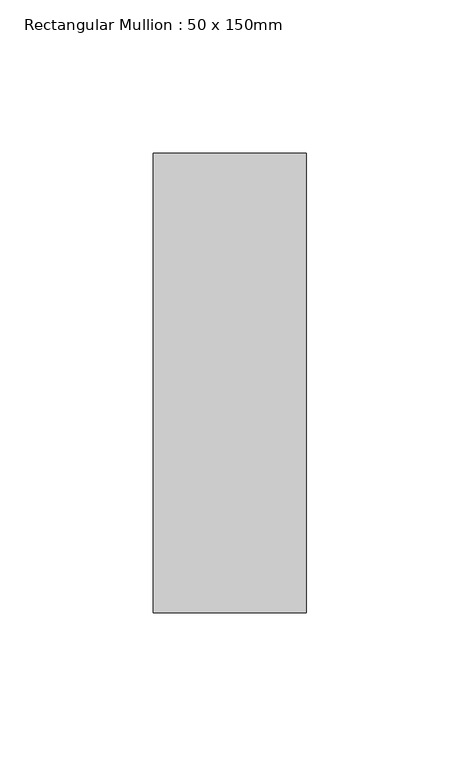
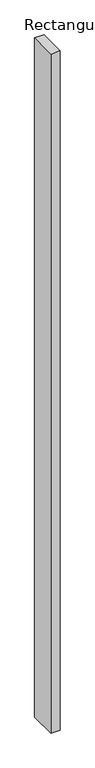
"""IFC4 building model written with IfcOpenShell, lengths in millimetres: member geometry, Rectangular Mullion : 50 x 150mm."""

from ifc_helpers import new_model, si_unit, frame, origin, place, context, project, spatial, polyline, outline, extrude, source, transform, mapped, element, save


def rectangular_mullion_50_x_150mm_e0b7c4f8(model_context):
    return source(origin(), model_context, "Body", "SweptSolid", [
        extrude(outline(polyline([(0.0, 75.0), (0.0, -75.0), (-50.0, -75.0), (-50.0, 75.0), (0.0, 75.0)])), frame((0.0, 0.0, -3850.0), z_axis=(0.0, 0.0, 1.0), x_axis=(1.0, 0.0, 0.0)), (0.0, 0.0, 1.0), 3850.0),
    ])


if __name__ == "__main__":
    model = new_model("IFC4")
    model_context = context("Model", 3, world=origin())
    ifc_project = project(units=[si_unit("LENGTHUNIT", "METRE", prefix="MILLI")], contexts=[model_context])
    site = spatial("IfcSite", under=ifc_project)
    building = spatial("IfcBuilding", under=site)
    placement = place(None, origin())
    rectangular_mullion_50_x_150mm_shape = rectangular_mullion_50_x_150mm_e0b7c4f8(model_context)
    element("IfcMember", 1, ObjectType="Rectangular Mullion : 50 x 150mm", at=placement, inside=building, context=model_context, shape_type="MappedRepresentation", body=[
        mapped(rectangular_mullion_50_x_150mm_shape, transform((0.0, 0.0, 0.0), x_axis=(1.0, 0.0, 0.0), y_axis=(0.0, 1.0, 0.0), z_axis=(0.0, 0.0, 1.0))),
    ])
    save(model, "model.ifc")
